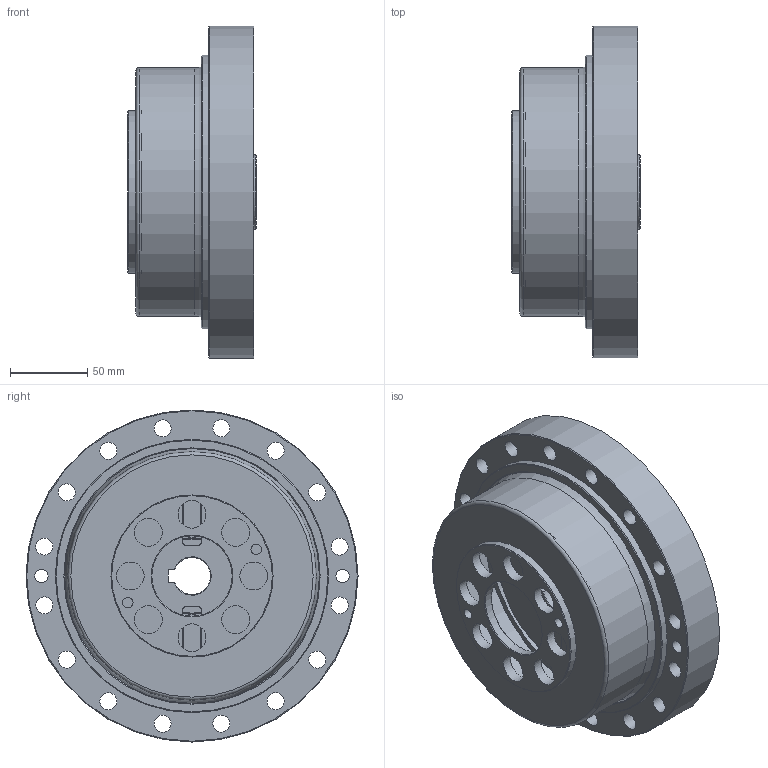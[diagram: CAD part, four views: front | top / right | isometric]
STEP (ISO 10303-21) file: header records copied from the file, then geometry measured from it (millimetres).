
FILE_DESCRIPTION (( 'STEP AP203' ), '1' );
FILE_NAME ('FCS-65-XXX-CO.STEP', '2025-04-08T11:44:55', ( '微软用户' ), ( '微软中国' ), 'SwSTEP 2.0', 'SolidWorks 2016', '' );
FILE_SCHEMA (( 'CONFIG_CONTROL_DESIGN' ));
Length unit declared in the file: millimetre
Products named in the file (1): FCS-65-XXX-CO
Bounding box: 83 x 215 x 215 mm (x, y, z)
Volume: 990061 mm3; surface area: 369868 mm2
Topology: 35 solids, 35 shells, 397 faces, 1059 edges, 692 vertices
Faces by surface type: plane 173, cylinder 137, cone 51, sphere 23, torus 9, bspline 4
Full cylindrical faces by diameter (mm): 3 x2, 6.8 x2, 8.5 x2, 11 x18, 18 x8, 45.5 x1, 48 x3, 49 x3, 52 x1, 60 x1, 68 x1, 104 x2, 105 x1, 120 x1, 128.2 x2, 134 x1, 138 x1, 147 x1, 152.1 x2, 159.3 x1, 160 x1, 160.9 x1, 165 x1, 168 x1, 177 x1, 215 x1
Entity records: 14476 total; most frequent: CARTESIAN_POINT 5185, DIRECTION 1994, ORIENTED_EDGE 1736, EDGE_CURVE 868, AXIS2_PLACEMENT_3D 832, VERTEX_POINT 618, EDGE_LOOP 554, FACE_OUTER_BOUND 445
